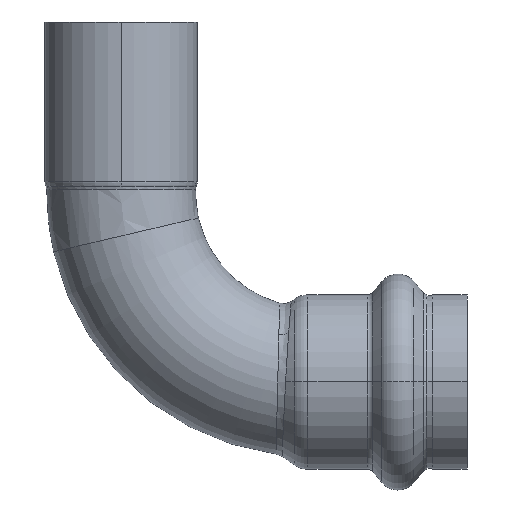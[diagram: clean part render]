
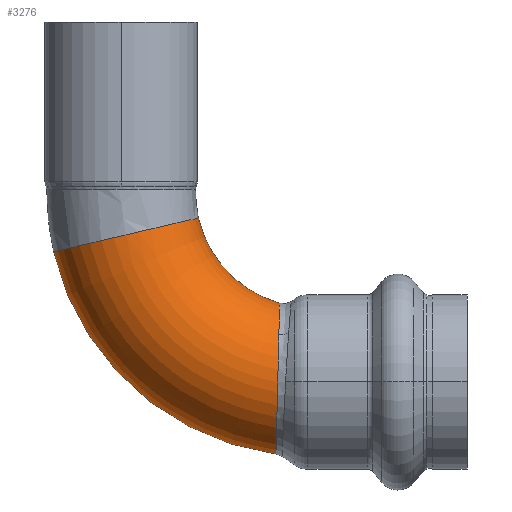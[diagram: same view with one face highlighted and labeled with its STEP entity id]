
A CAD part, top view. The second image highlights one B-rep face of the part: STEP entity #3276.
In plain terms, the highlighted toroidal (fillet/blend) face has major radius 27.5 mm and minor radius 10.75 mm.
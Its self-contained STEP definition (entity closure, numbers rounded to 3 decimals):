
#5 = CARTESIAN_POINT ( 'NONE',  ( 22.418, -9.284, 4.798 ) ) ;
#23 = CARTESIAN_POINT ( 'NONE',  ( 22.576, -2.61, 10.367 ) ) ;
#30 = CARTESIAN_POINT ( 'NONE',  ( 22.754, 4.695, 9.905 ) ) ;
#35 = AXIS2_PLACEMENT_3D ( 'NONE', #2556, #2286, #2567 ) ;
#40 = CARTESIAN_POINT ( 'NONE',  ( 27.5, 27.5, 0. ) ) ;
#196 = DIRECTION ( 'NONE',  ( 0., 0., -1. ) ) ;
#316 = CARTESIAN_POINT ( 'NONE',  ( 22.435, -8.529, 6.074 ) ) ;
#328 = CARTESIAN_POINT ( 'NONE',  ( 22.611, -1.138, 10.64 ) ) ;
#338 = CARTESIAN_POINT ( 'NONE',  ( 22.786, 6.029, 9.239 ) ) ;
#355 = DIRECTION ( 'NONE',  ( -1., 0., 0. ) ) ;
#374 = DIRECTION ( 'NONE',  ( -1., 0., 0. ) ) ;
#400 = FACE_OUTER_BOUND ( 'NONE', #3502, .T. ) ;
#527 = EDGE_CURVE ( 'NONE', #3437, #1771, #2378, .T. ) ;
#624 = CARTESIAN_POINT ( 'NONE',  ( 22.457, -7.603, 7.239 ) ) ;
#638 = CARTESIAN_POINT ( 'NONE',  ( 22.63, -0.397, 10.722 ) ) ;
#651 = CARTESIAN_POINT ( 'NONE',  ( 22.806, 6.861, 8.686 ) ) ;
#785 = VERTEX_POINT ( 'NONE', #3185 ) ;
#789 = AXIS2_PLACEMENT_3D ( 'NONE', #1899, #196, #2225 ) ;
#924 = CARTESIAN_POINT ( 'NONE',  ( 22.482, -6.521, 8.268 ) ) ;
#934 = CARTESIAN_POINT ( 'NONE',  ( 22.66, 0.838, 10.754 ) ) ;
#1198 = CARTESIAN_POINT ( 'NONE',  ( 22.393, -10.372, 0.999 ) ) ;
#1205 = CARTESIAN_POINT ( 'NONE',  ( 22.506, -5.521, 8.992 ) ) ;
#1216 = CARTESIAN_POINT ( 'NONE',  ( 22.684, 1.824, 10.664 ) ) ;
#1286 = CARTESIAN_POINT ( 'NONE',  ( 22.806, 6.861, 8.686 ) ) ;
#1422 = ORIENTED_EDGE ( 'NONE', *, *, #1750, .F. ) ;
#1425 = VERTEX_POINT ( 'NONE', #3621 ) ;
#1447 = CARTESIAN_POINT ( 'NONE',  ( 22.398, -10.131, 2.465 ) ) ;
#1458 = CARTESIAN_POINT ( 'NONE',  ( 22.521, -4.882, 9.377 ) ) ;
#1470 = CARTESIAN_POINT ( 'NONE',  ( 22.702, 2.564, 10.544 ) ) ;
#1481 = DIRECTION ( 'NONE',  ( 0., 0., -1. ) ) ;
#1521 = ORIENTED_EDGE ( 'NONE', *, *, #3170, .T. ) ;
#1681 = CARTESIAN_POINT ( 'NONE',  ( 22.392, -10.407, 0. ) ) ;
#1698 = CARTESIAN_POINT ( 'NONE',  ( 22.408, -9.689, 3.884 ) ) ;
#1703 = CARTESIAN_POINT ( 'NONE',  ( 22.553, -3.545, 10.052 ) ) ;
#1708 = AXIS2_PLACEMENT_3D ( 'NONE', #40, #2050, #355 ) ;
#1710 = CARTESIAN_POINT ( 'NONE',  ( 22.732, 3.768, 10.245 ) ) ;
#1750 = EDGE_CURVE ( 'NONE', #785, #2540, #3257, .T. ) ;
#1771 = VERTEX_POINT ( 'NONE', #2276 ) ;
#1899 = CARTESIAN_POINT ( 'NONE',  ( 27.5, 27.5, 0. ) ) ;
#1986 = ORIENTED_EDGE ( 'NONE', *, *, #3209, .T. ) ;
#2012 = CARTESIAN_POINT ( 'NONE',  ( 22.423, -9.051, 5.236 ) ) ;
#2023 = CARTESIAN_POINT ( 'NONE',  ( 22.605, -1.386, 10.601 ) ) ;
#2041 = CARTESIAN_POINT ( 'NONE',  ( 22.765, 5.147, 9.704 ) ) ;
#2050 = DIRECTION ( 'NONE',  ( 0., 0., -1. ) ) ;
#2092 = CIRCLE ( 'NONE', #1708, 16.75 ) ;
#2174 = ORIENTED_EDGE ( 'NONE', *, *, #527, .T. ) ;
#2225 = DIRECTION ( 'NONE',  ( -1., 0., 0. ) ) ;
#2261 = EDGE_CURVE ( 'NONE', #1425, #785, #2946, .T. ) ;
#2276 = CARTESIAN_POINT ( 'NONE',  ( 22.9, 11.394, 0. ) ) ;
#2286 = DIRECTION ( 'NONE',  ( -0.227, 0.974, 0. ) ) ;
#2346 = CARTESIAN_POINT ( 'NONE',  ( 22.442, -8.239, 6.475 ) ) ;
#2359 = CARTESIAN_POINT ( 'NONE',  ( 22.624, -0.644, 10.7 ) ) ;
#2370 = CARTESIAN_POINT ( 'NONE',  ( 22.796, 6.456, 8.975 ) ) ;
#2378 = B_SPLINE_CURVE_WITH_KNOTS ( 'NONE', 3,
 ( #2822, #2785, #3036, #3035, #3033, #3025, #3022, #3017, #3012, #3004, #2981, #2967, #2964, #2960 ),
 .UNSPECIFIED., .F., .F.,
 ( 4, 2, 2, 2, 2, 2, 4 ),
 ( 0.031, 0.034, 0.035, 0.037, 0.039, 0.04, 0.042 ),
 .UNSPECIFIED. ) ;
#2540 = VERTEX_POINT ( 'NONE', #3132 ) ;
#2556 = CARTESIAN_POINT ( 'NONE',  ( 0.719, 21.251, 0. ) ) ;
#2567 = DIRECTION ( 'NONE',  ( -0.974, -0.227, 0. ) ) ;
#2597 = ORIENTED_EDGE ( 'NONE', *, *, #2261, .F. ) ;
#2665 = CARTESIAN_POINT ( 'NONE',  ( 22.465, -7.254, 7.602 ) ) ;
#2675 = CARTESIAN_POINT ( 'NONE',  ( 22.648, 0.344, 10.761 ) ) ;
#2785 = CARTESIAN_POINT ( 'NONE',  ( 22.822, 7.552, 8.192 ) ) ;
#2822 = CARTESIAN_POINT ( 'NONE',  ( 22.806, 6.861, 8.686 ) ) ;
#2938 = CARTESIAN_POINT ( 'NONE',  ( 22.491, -6.133, 8.573 ) ) ;
#2946 = CIRCLE ( 'NONE', #789, 38.25 ) ;
#2954 = CARTESIAN_POINT ( 'NONE',  ( 22.678, 1.578, 10.693 ) ) ;
#2960 = CARTESIAN_POINT ( 'NONE',  ( 22.9, 11.394, 0. ) ) ;
#2964 = CARTESIAN_POINT ( 'NONE',  ( 22.9, 11.394, 0.422 ) ) ;
#2967 = CARTESIAN_POINT ( 'NONE',  ( 22.9, 11.368, 0.844 ) ) ;
#2981 = CARTESIAN_POINT ( 'NONE',  ( 22.898, 11.265, 1.688 ) ) ;
#3004 = CARTESIAN_POINT ( 'NONE',  ( 22.897, 11.186, 2.11 ) ) ;
#3012 = CARTESIAN_POINT ( 'NONE',  ( 22.891, 10.879, 3.342 ) ) ;
#3017 = CARTESIAN_POINT ( 'NONE',  ( 22.886, 10.579, 4.13 ) ) ;
#3022 = CARTESIAN_POINT ( 'NONE',  ( 22.874, 9.984, 5.262 ) ) ;
#3025 = CARTESIAN_POINT ( 'NONE',  ( 22.87, 9.763, 5.628 ) ) ;
#3033 = CARTESIAN_POINT ( 'NONE',  ( 22.86, 9.284, 6.326 ) ) ;
#3035 = CARTESIAN_POINT ( 'NONE',  ( 22.854, 9.025, 6.659 ) ) ;
#3036 = CARTESIAN_POINT ( 'NONE',  ( 22.836, 8.191, 7.613 ) ) ;
#3132 = CARTESIAN_POINT ( 'NONE',  ( 11.188, 23.694, 0. ) ) ;
#3141 = AXIS2_PLACEMENT_3D ( 'NONE', #3233, #1481, #374 ) ;
#3170 = EDGE_CURVE ( 'NONE', #1425, #3437, #3392, .T. ) ;
#3185 = CARTESIAN_POINT ( 'NONE',  ( -9.749, 18.808, 0. ) ) ;
#3189 = CARTESIAN_POINT ( 'NONE',  ( 22.396, -10.234, 1.982 ) ) ;
#3199 = CARTESIAN_POINT ( 'NONE',  ( 22.511, -5.311, 9.125 ) ) ;
#3206 = CARTESIAN_POINT ( 'NONE',  ( 22.696, 2.317, 10.59 ) ) ;
#3209 = EDGE_CURVE ( 'NONE', #1771, #2540, #2092, .T. ) ;
#3233 = CARTESIAN_POINT ( 'NONE',  ( 27.5, 27.5, 0. ) ) ;
#3257 = CIRCLE ( 'NONE', #35, 10.75 ) ;
#3276 = ADVANCED_FACE ( 'NONE', ( #400 ), #3347, .T. ) ;
#3347 = TOROIDAL_SURFACE ( 'NONE', #3141, 27.5, 10.75 ) ;
#3392 = B_SPLINE_CURVE_WITH_KNOTS ( 'NONE', 3,
 ( #1681, #3631, #1198, #3189, #1447, #3426, #1698, #5, #2012, #316, #2346, #624, #2665, #924, #2938, #1205, #3199, #1458, #3434, #1703, #23, #2023, #328, #2359, #638, #2675, #934, #2954, #1216, #3206, #1470, #3443, #1710, #30, #2041, #338, #2370, #651 ),
 .UNSPECIFIED., .F., .F.,
 ( 4, 2, 2, 2, 2, 2, 2, 2, 2, 2, 2, 2, 2, 2, 2, 2, 2, 2, 4 ),
 ( 0.007, 0.009, 0.01, 0.012, 0.013, 0.015, 0.016, 0.018, 0.019, 0.019, 0.022, 0.023, 0.024, 0.025, 0.026, 0.027, 0.028, 0.03, 0.031 ),
 .UNSPECIFIED. ) ;
#3426 = CARTESIAN_POINT ( 'NONE',  ( 22.404, -9.859, 3.415 ) ) ;
#3434 = CARTESIAN_POINT ( 'NONE',  ( 22.526, -4.661, 9.497 ) ) ;
#3437 = VERTEX_POINT ( 'NONE', #1286 ) ;
#3443 = CARTESIAN_POINT ( 'NONE',  ( 22.72, 3.293, 10.384 ) ) ;
#3502 = EDGE_LOOP ( 'NONE', ( #2597, #1521, #2174, #1986, #1422 ) ) ;
#3621 = CARTESIAN_POINT ( 'NONE',  ( 22.392, -10.407, 0. ) ) ;
#3631 = CARTESIAN_POINT ( 'NONE',  ( 22.392, -10.407, 0.496 ) ) ;
